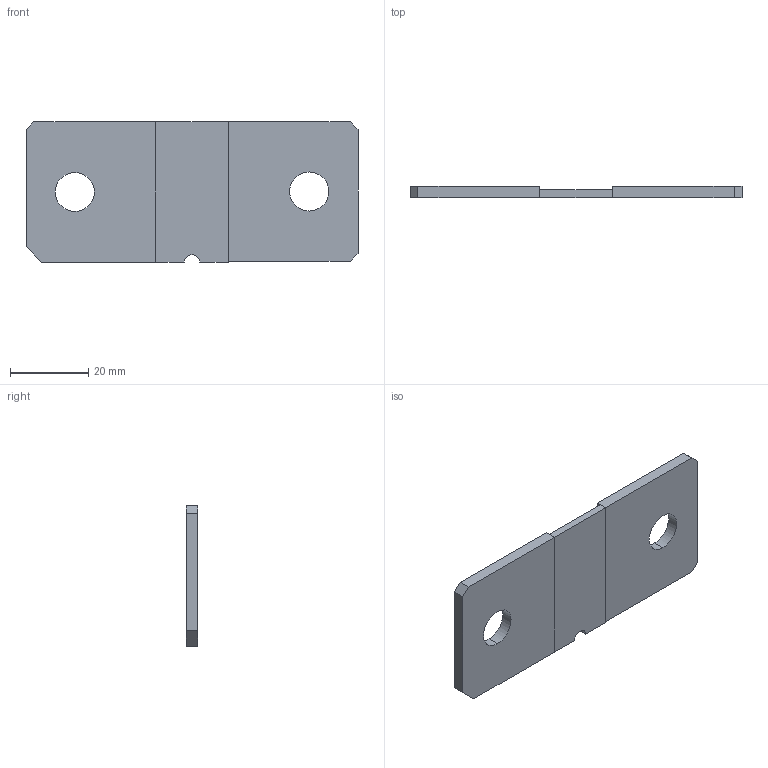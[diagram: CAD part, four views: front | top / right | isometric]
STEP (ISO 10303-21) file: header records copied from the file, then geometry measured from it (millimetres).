
FILE_DESCRIPTION (( 'STEP AP214' ), '1' );
FILE_NAME ('WSBS8536 100 microohm.STEP', '2021-03-09T15:36:51', ( '' ), ( '' ), 'SwSTEP 2.0', 'SolidWorks 2019', '' );
FILE_SCHEMA (( 'AUTOMOTIVE_DESIGN' ));
Length unit declared in the file: inch
Products named in the file (4): Left Terminal WSBS 8536 100 microohm; WSBS8536 100 microohm; Right Terminal WSBS 8536 100 microohm; Element WSBS 8536 100 microohm
Assembly tree (3 placements, depth 2):
  WSBS8536 100 microohm
    Element WSBS 8536 100 microohm
    Left Terminal WSBS 8536 100 microohm
    Right Terminal WSBS 8536 100 microohm
Bounding box: 84.99 x 3 x 35.99 mm (x, y, z)
Volume: 7939.1 mm3; surface area: 6965.7 mm2
Topology: 3 solids, 3 shells, 29 faces, 69 edges, 46 vertices
Faces by surface type: plane 23, cylinder 6
Entity records: 1017 total; most frequent: DIRECTION 151, CARTESIAN_POINT 150, ORIENTED_EDGE 138, EDGE_CURVE 69, LINE 57, VECTOR 57, AXIS2_PLACEMENT_3D 47, VERTEX_POINT 46
